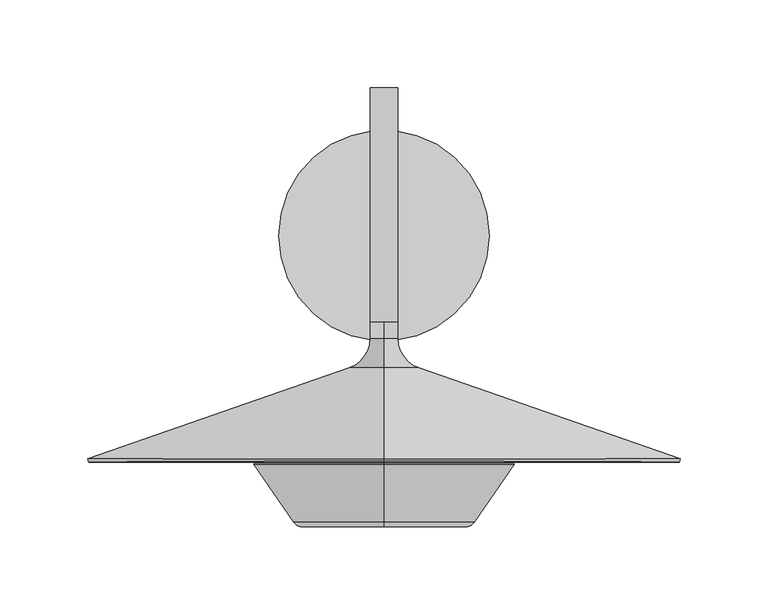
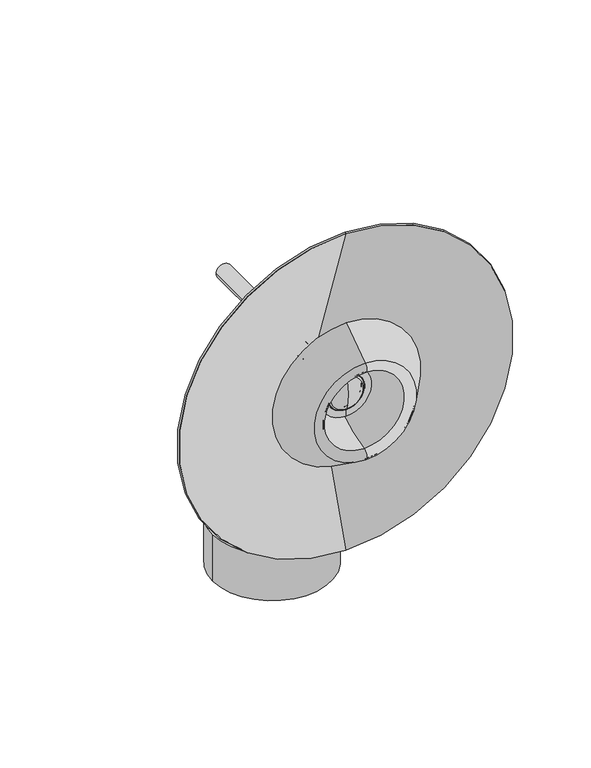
"""IFC4 building model written with IfcOpenShell, lengths in millimetres: light fixture geometry, BOVER_FANALET-A01-OUTDOOR_USA : FANALET_A01_TRIAC_U."""

from ifc_helpers import new_model, si_unit, point, frame, frame_2d, origin, origin_with_axes, origin_2d, place, context, project, spatial, polyline, circle_curve, ellipse_curve, trimmed, segment, composite_curve, outline, extrude, source, transform, mapped, element, save
from ifc_brep_helpers import plane_surface, cylinder_surface, revolved_surface, advanced_brep


def light_fixture_f4510032(model_context):
    return source(origin(), model_context, "Body", "SolidModel", [
        advanced_brep(
        [(0.0, -143.4, 320.1), (0.0, -143.4, 306.9691967), (0.0, -143.4, 212.6308033), (0.0, -143.4, 199.5), (0.0, -144.4, 320.1), (0.0, -144.4, 199.5), (0.0, -144.4, 306.9691967), (0.0, -144.4, 212.6308033), (0.0, -142.1628139, 303.3785858), (0.0, -142.1628139, 216.2214142), (0.0, -67.6985396, 266.8202796), (0.0, -67.6985396, 252.7797204), (0.0, -62.0134649, 265.5), (0.0, -62.0134649, 254.1), (0.0, -59.6770745, 265.5), (0.0, -59.6770745, 254.1), (0.0, -59.6770745, 266.5), (0.0, -59.6770745, 253.1), (0.0, -62.0134649, 266.5), (0.0, -62.0134649, 253.1), (0.0, -67.2578362, 267.7179323), (0.0, -67.2578362, 251.8820677), (0.0, -141.7221104, 304.2762385), (0.0, -141.7221104, 215.3237615)],
        [
            (0, 1),
            (1, 2, circle_curve(frame((0.0, -143.4, 259.8), z_axis=(0.0, -1.0, 0.0), x_axis=(0.0, 0.0, -1.0)), 47.1691967)),
            (2, 3),
            (3, 0, circle_curve(frame((0.0, -143.4, 259.8), z_axis=(0.0, 1.0, 0.0), x_axis=(0.0, 0.0, -1.0)), 60.3)),
            (2, 1, circle_curve(frame((0.0, -143.4, 259.8), z_axis=(0.0, -1.0, 0.0), x_axis=(0.0, 0.0, -1.0)), 47.1691967)),
            (0, 3, circle_curve(frame((0.0, -143.4, 259.8), z_axis=(0.0, 1.0, 0.0), x_axis=(0.0, 0.0, -1.0)), 60.3)),
            (4, 0),
            (3, 5),
            (5, 4, circle_curve(frame((0.0, -144.4, 259.8), z_axis=(0.0, 1.0, 0.0), x_axis=(0.0, 0.0, -1.0)), 60.3)),
            (4, 5, circle_curve(frame((0.0, -144.4, 259.8), z_axis=(0.0, 1.0, 0.0), x_axis=(0.0, 0.0, -1.0)), 60.3)),
            (6, 4),
            (5, 7),
            (7, 6, circle_curve(frame((0.0, -144.4, 259.8), z_axis=(0.0, 1.0, 0.0), x_axis=(0.0, 0.0, -1.0)), 47.1691967)),
            (6, 7, circle_curve(frame((0.0, -144.4, 259.8), z_axis=(0.0, 1.0, 0.0), x_axis=(0.0, 0.0, -1.0)), 47.1691967)),
            (8, 6, circle_curve(frame((0.0, -140.4, 306.9691967), z_axis=(-1.0, 0.0, 0.0), x_axis=(0.0, 0.0, -1.0)), 4.0)),
            (7, 9, circle_curve(frame((0.0, -140.4, 212.6308033), z_axis=(-1.0, 0.0, 0.0), x_axis=(0.0, 0.0, 1.0)), 4.0)),
            (9, 8, circle_curve(frame((0.0, -142.1628139, 259.8), z_axis=(0.0, 1.0, 0.0), x_axis=(0.0, 0.0, -1.0)), 43.5785858)),
            (8, 9, circle_curve(frame((0.0, -142.1628139, 259.8), z_axis=(0.0, 1.0, 0.0), x_axis=(0.0, 0.0, -1.0)), 43.5785858)),
            (10, 8),
            (9, 11),
            (11, 10, circle_curve(frame((0.0, -67.6985396, 259.8), z_axis=(0.0, 1.0, 0.0), x_axis=(0.0, 0.0, -1.0)), 7.0202796)),
            (10, 11, circle_curve(frame((0.0, -67.6985396, 259.8), z_axis=(0.0, 1.0, 0.0), x_axis=(0.0, 0.0, -1.0)), 7.0202796)),
            (12, 10, circle_curve(frame((0.0, -62.0134649, 278.4), z_axis=(-1.0, 0.0, 0.0), x_axis=(0.0, 0.0, -1.0)), 12.9)),
            (11, 13, circle_curve(frame((0.0, -62.0134649, 241.2), z_axis=(-1.0, 0.0, 0.0), x_axis=(0.0, 0.0, 1.0)), 12.9)),
            (13, 12, circle_curve(frame((0.0, -62.0134649, 259.8), z_axis=(0.0, 1.0, 0.0), x_axis=(0.0, 0.0, -1.0)), 5.7)),
            (12, 13, circle_curve(frame((0.0, -62.0134649, 259.8), z_axis=(0.0, 1.0, 0.0), x_axis=(0.0, 0.0, -1.0)), 5.7)),
            (14, 12),
            (13, 15),
            (15, 14, circle_curve(frame((0.0, -59.6770745, 259.8), z_axis=(0.0, 1.0, 0.0), x_axis=(0.0, 0.0, -1.0)), 5.7)),
            (14, 15, circle_curve(frame((0.0, -59.6770745, 259.8), z_axis=(0.0, 1.0, 0.0), x_axis=(0.0, 0.0, -1.0)), 5.7)),
            (16, 14),
            (15, 17),
            (17, 16, circle_curve(frame((0.0, -59.6770745, 259.8), z_axis=(0.0, 1.0, 0.0), x_axis=(0.0, 0.0, -1.0)), 6.7)),
            (16, 17, circle_curve(frame((0.0, -59.6770745, 259.8), z_axis=(0.0, 1.0, 0.0), x_axis=(0.0, 0.0, -1.0)), 6.7)),
            (18, 16),
            (17, 19),
            (19, 18, circle_curve(frame((0.0, -62.0134649, 259.8), z_axis=(0.0, 1.0, 0.0), x_axis=(0.0, 0.0, -1.0)), 6.7)),
            (18, 19, circle_curve(frame((0.0, -62.0134649, 259.8), z_axis=(0.0, 1.0, 0.0), x_axis=(0.0, 0.0, -1.0)), 6.7)),
            (20, 18, circle_curve(frame((0.0, -62.0134649, 278.4), z_axis=(1.0, 0.0, 0.0), x_axis=(0.0, 0.0, -1.0)), 11.9)),
            (19, 21, circle_curve(frame((0.0, -62.0134649, 241.2), z_axis=(1.0, 0.0, 0.0), x_axis=(0.0, 0.0, 1.0)), 11.9)),
            (21, 20, circle_curve(frame((0.0, -67.2578362, 259.8), z_axis=(0.0, 1.0, 0.0), x_axis=(0.0, 0.0, -1.0)), 7.9179323)),
            (20, 21, circle_curve(frame((0.0, -67.2578362, 259.8), z_axis=(0.0, 1.0, 0.0), x_axis=(0.0, 0.0, -1.0)), 7.9179323)),
            (22, 20),
            (21, 23),
            (23, 22, circle_curve(frame((0.0, -141.7221104, 259.8), z_axis=(0.0, 1.0, 0.0), x_axis=(0.0, 0.0, -1.0)), 44.4762385)),
            (22, 23, circle_curve(frame((0.0, -141.7221104, 259.8), z_axis=(0.0, 1.0, 0.0), x_axis=(0.0, 0.0, -1.0)), 44.4762385)),
            (1, 22, circle_curve(frame((0.0, -140.4, 306.9691967), z_axis=(1.0, 0.0, 0.0), x_axis=(0.0, 0.0, -1.0)), 3.0)),
            (23, 2, circle_curve(frame((0.0, -140.4, 212.6308033), z_axis=(1.0, 0.0, 0.0), x_axis=(0.0, 0.0, 1.0)), 3.0)),
        ],
        [
            plane_surface(frame((0.0, -143.4, 259.8), z_axis=(0.0, 1.0, 0.0), x_axis=(0.0, 0.0, -1.0))),
            cylinder_surface(frame((0.0, -85.6770745, 259.8), z_axis=(0.0, -1.0, 0.0), x_axis=(0.0, 0.0, -1.0)), 60.3),
            plane_surface(frame((0.0, -144.4, 259.8), z_axis=(0.0, -1.0, 0.0), x_axis=(0.0, 0.0, -1.0))),
            revolved_surface(trimmed(ellipse_curve(frame((0.0, -140.4, 212.6308033), z_axis=(-1.0, 0.0, 0.0), x_axis=(0.0, 0.0, 1.0)), 4.0, 4.0), [point((0.0, -144.4, 212.6308033))], [point((0.0, -142.1628139, 216.2214142))], True, "CARTESIAN"), (0.0, -85.6770745, 259.8), (0.0, -1.0, 0.0)),
            revolved_surface(polyline([(0.0, -142.1628139, 216.2214142), (0.0, -67.6985396, 252.7797204)]), (0.0, -85.6770745, 259.8), (0.0, -1.0, 0.0)),
            revolved_surface(trimmed(ellipse_curve(frame((0.0, -62.0134649, 241.2), z_axis=(-1.0, 0.0, 0.0), x_axis=(0.0, 0.0, 1.0)), 12.9, 12.9), [point((0.0, -67.6985396, 252.7797204))], [point((0.0, -62.0134649, 254.1))], True, "CARTESIAN"), (0.0, -85.6770745, 259.8), (0.0, -1.0, 0.0)),
            revolved_surface(polyline([(0.0, -62.0134649, 254.10000000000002), (0.0, -59.6770745, 254.10000000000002)]), (0.0, -85.6770745, 259.8), (0.0, -1.0, 0.0)),
            plane_surface(frame((0.0, -59.6770745, 259.8), z_axis=(0.0, 1.0, 0.0), x_axis=(0.0, 0.0, -1.0))),
            cylinder_surface(frame((0.0, -85.6770745, 259.8), z_axis=(0.0, -1.0, 0.0), x_axis=(0.0, 0.0, -1.0)), 6.7),
            revolved_surface(trimmed(ellipse_curve(frame((0.0, -62.0134649, 241.2), z_axis=(1.0, 0.0, 0.0), x_axis=(0.0, 0.0, 1.0)), 11.9, 11.9), [point((0.0, -62.0134649, 253.1))], [point((0.0, -67.2578362, 251.8820677))], True, "CARTESIAN"), (0.0, -85.6770745, 259.8), (0.0, -1.0, 0.0)),
            revolved_surface(polyline([(0.0, -67.2578362, 251.8820677), (0.0, -141.7221104, 215.3237615)]), (0.0, -85.6770745, 259.8), (0.0, -1.0, 0.0)),
            revolved_surface(trimmed(ellipse_curve(frame((0.0, -140.4, 212.6308033), z_axis=(1.0, 0.0, 0.0), x_axis=(0.0, 0.0, 1.0)), 3.0, 3.0), [point((0.0, -141.7221104, 215.3237615))], [point((0.0, -143.4, 212.6308033))], True, "CARTESIAN"), (0.0, -85.6770745, 259.8), (0.0, -1.0, 0.0)),
        ],
        [
            (0, [[1, 2, 3, 4]]),
            (0, [[-3, 5, -1, 6]]),
            (1, [[7, -4, 8, 9]]),
            (1, [[-8, -6, -7, 10]]),
            (2, [[11, -9, 12, 13]]),
            (2, [[-12, -10, -11, 14]]),
            (3, [[15, -13, 16, 17]]),
            (3, [[-16, -14, -15, 18]]),
            (4, [[19, -17, 20, 21]]),
            (4, [[-20, -18, -19, 22]]),
            (5, [[23, -21, 24, 25]]),
            (5, [[-24, -22, -23, 26]]),
            (6, [[27, -25, 28, 29]]),
            (6, [[-28, -26, -27, 30]]),
            (7, [[31, -29, 32, 33]]),
            (7, [[-32, -30, -31, 34]]),
            (8, [[35, -33, 36, 37]]),
            (8, [[-36, -34, -35, 38]]),
            (9, [[39, -37, 40, 41]]),
            (9, [[-40, -38, -39, 42]]),
            (10, [[43, -41, 44, 45]]),
            (10, [[-44, -42, -43, 46]]),
            (11, [[47, -45, 48, -2]]),
            (11, [[-48, -46, -47, -5]]),
        ],
    ),
        advanced_brep(
        [(0.0, -127.5, 285.4944102), (0.0, -127.5, 278.7944102), (0.0, -127.5, 240.8055898), (0.0, -127.5, 234.1055898), (0.0, -129.5, 285.4944102), (0.0, -129.5, 234.1055898), (0.0, -129.5, 278.7944102), (0.0, -129.5, 240.8055898)],
        [
            (0, 1),
            (1, 2, circle_curve(frame((0.0, -127.5, 259.8), z_axis=(0.0, -1.0, 0.0), x_axis=(0.0, 0.0, -1.0)), 18.9944102)),
            (2, 3),
            (3, 0, circle_curve(frame((0.0, -127.5, 259.8), z_axis=(0.0, 1.0, 0.0), x_axis=(0.0, 0.0, -1.0)), 25.6944102)),
            (2, 1, circle_curve(frame((0.0, -127.5, 259.8), z_axis=(0.0, -1.0, 0.0), x_axis=(0.0, 0.0, -1.0)), 18.9944102)),
            (0, 3, circle_curve(frame((0.0, -127.5, 259.8), z_axis=(0.0, 1.0, 0.0), x_axis=(0.0, 0.0, -1.0)), 25.6944102)),
            (4, 0),
            (3, 5),
            (5, 4, circle_curve(frame((0.0, -129.5, 259.8), z_axis=(0.0, 1.0, 0.0), x_axis=(0.0, 0.0, -1.0)), 25.6944102)),
            (4, 5, circle_curve(frame((0.0, -129.5, 259.8), z_axis=(0.0, 1.0, 0.0), x_axis=(0.0, 0.0, -1.0)), 25.6944102)),
            (6, 4),
            (5, 7),
            (7, 6, circle_curve(frame((0.0, -129.5, 259.8), z_axis=(0.0, 1.0, 0.0), x_axis=(0.0, 0.0, -1.0)), 18.9944102)),
            (6, 7, circle_curve(frame((0.0, -129.5, 259.8), z_axis=(0.0, 1.0, 0.0), x_axis=(0.0, 0.0, -1.0)), 18.9944102)),
            (1, 6),
            (7, 2),
        ],
        [
            plane_surface(frame((0.0, -127.5, 259.8), z_axis=(0.0, 1.0, 0.0), x_axis=(0.0, 0.0, -1.0))),
            cylinder_surface(frame((0.0, -113.7553389, 259.8), z_axis=(0.0, -1.0, 0.0), x_axis=(0.0, 0.0, -1.0)), 25.6944102),
            plane_surface(frame((0.0, -129.5, 259.8), z_axis=(0.0, -1.0, 0.0), x_axis=(0.0, 0.0, -1.0))),
            revolved_surface(polyline([(0.0, -129.5, 240.8055898), (0.0, -127.5, 240.8055898)]), (0.0, -113.7553389, 259.8), (0.0, -1.0, 0.0)),
        ],
        [
            (0, [[1, 2, 3, 4]]),
            (0, [[-3, 5, -1, 6]]),
            (1, [[7, -4, 8, 9]]),
            (1, [[-8, -6, -7, 10]]),
            (2, [[11, -9, 12, 13]]),
            (2, [[-12, -10, -11, 14]]),
            (3, [[15, -13, 16, -2]]),
            (3, [[-16, -14, -15, -5]]),
        ],
    ),
        advanced_brep(
        [(0.0, -127.5, 285.0), (0.0, -126.0, 285.0), (0.0, -126.0, 234.6), (0.0, -127.5, 234.6), (0.0, -127.5, 278.1), (0.0, -127.5, 241.5), (0.0, -129.2316716, 278.0373555), (0.0, -129.2316716, 241.5626445), (0.0, -131.0779542, 276.603486), (0.0, -131.0779542, 242.996514), (0.0, -133.5, 259.8), (0.0, -129.5361353, 276.5253602), (0.0, -132.0, 259.8), (0.0, -129.5361353, 243.0746398), (0.0, -127.4457719, 276.6009805), (0.0, -127.4457719, 242.9990195), (0.0, -126.0, 278.1), (0.0, -126.0, 241.5)],
        [
            (0, 1),
            (1, 2, circle_curve(frame((0.0, -126.0, 259.8), z_axis=(0.0, -1.0, 0.0), x_axis=(0.0, 0.0, -1.0)), 25.2)),
            (2, 3),
            (3, 0, circle_curve(frame((0.0, -127.5, 259.8), z_axis=(0.0, 1.0, 0.0), x_axis=(0.0, 0.0, -1.0)), 25.2)),
            (2, 1, circle_curve(frame((0.0, -126.0, 259.8), z_axis=(0.0, -1.0, 0.0), x_axis=(0.0, 0.0, -1.0)), 25.2)),
            (0, 3, circle_curve(frame((0.0, -127.5, 259.8), z_axis=(0.0, 1.0, 0.0), x_axis=(0.0, 0.0, -1.0)), 25.2)),
            (4, 0),
            (3, 5),
            (5, 4, circle_curve(frame((0.0, -127.5, 259.8), z_axis=(0.0, 1.0, 0.0), x_axis=(0.0, 0.0, -1.0)), 18.3)),
            (4, 5, circle_curve(frame((0.0, -127.5, 259.8), z_axis=(0.0, 1.0, 0.0), x_axis=(0.0, 0.0, -1.0)), 18.3)),
            (6, 4),
            (5, 7),
            (7, 6, circle_curve(frame((0.0, -129.2316716, 259.8), z_axis=(0.0, 1.0, 0.0), x_axis=(0.0, 0.0, -1.0)), 18.2373555)),
            (6, 7, circle_curve(frame((0.0, -129.2316716, 259.8), z_axis=(0.0, 1.0, 0.0), x_axis=(0.0, 0.0, -1.0)), 18.2373555)),
            (8, 6, circle_curve(frame((0.0, -129.1593675, 276.0386629), z_axis=(-1.0, 0.0, 0.0), x_axis=(0.0, 0.0, -1.0)), 2.0)),
            (7, 9, circle_curve(frame((0.0, -129.1593675, 243.5613371), z_axis=(-1.0, 0.0, 0.0), x_axis=(0.0, 0.0, 1.0)), 2.0)),
            (9, 8, circle_curve(frame((0.0, -131.0779542, 259.8), z_axis=(0.0, 1.0, 0.0), x_axis=(0.0, 0.0, -1.0)), 16.803486)),
            (8, 9, circle_curve(frame((0.0, -131.0779542, 259.8), z_axis=(0.0, 1.0, 0.0), x_axis=(0.0, 0.0, -1.0)), 16.803486)),
            (10, 8, circle_curve(frame((0.0, -74.0, 259.8), z_axis=(-1.0, 0.0, 0.0), x_axis=(0.0, 0.0, -1.0)), 59.5)),
            (9, 10, circle_curve(frame((0.0, -74.0, 259.8), z_axis=(-1.0, 0.0, 0.0), x_axis=(0.0, 0.0, 1.0)), 59.5)),
            (11, 12, circle_curve(frame((0.0, -74.0, 259.8), z_axis=(1.0, 0.0, 0.0), x_axis=(0.0, 0.0, -1.0)), 58.0)),
            (12, 13, circle_curve(frame((0.0, -74.0, 259.8), z_axis=(1.0, 0.0, 0.0), x_axis=(0.0, 0.0, 1.0)), 58.0)),
            (13, 11, circle_curve(frame((0.0, -129.5361353, 259.8), z_axis=(0.0, 1.0, 0.0), x_axis=(0.0, 0.0, -1.0)), 16.7253602)),
            (11, 13, circle_curve(frame((0.0, -129.5361353, 259.8), z_axis=(0.0, 1.0, 0.0), x_axis=(0.0, 0.0, -1.0)), 16.7253602)),
            (14, 11),
            (13, 15),
            (15, 14, circle_curve(frame((0.0, -127.4457719, 259.8), z_axis=(0.0, 1.0, 0.0), x_axis=(0.0, 0.0, -1.0)), 16.8009805)),
            (14, 15, circle_curve(frame((0.0, -127.4457719, 259.8), z_axis=(0.0, 1.0, 0.0), x_axis=(0.0, 0.0, -1.0)), 16.8009805)),
            (16, 14, circle_curve(frame((0.0, -127.5, 278.1), z_axis=(-1.0, 0.0, 0.0), x_axis=(0.0, 0.0, -1.0)), 1.5)),
            (15, 17, circle_curve(frame((0.0, -127.5, 241.5), z_axis=(-1.0, 0.0, 0.0), x_axis=(0.0, 0.0, 1.0)), 1.5)),
            (17, 16, circle_curve(frame((0.0, -126.0, 259.8), z_axis=(0.0, 1.0, 0.0), x_axis=(0.0, 0.0, -1.0)), 18.3)),
            (16, 17, circle_curve(frame((0.0, -126.0, 259.8), z_axis=(0.0, 1.0, 0.0), x_axis=(0.0, 0.0, -1.0)), 18.3)),
            (1, 16),
            (17, 2),
        ],
        [
            cylinder_surface(frame((0.0, -125.2466328, 259.8), z_axis=(0.0, -1.0, 0.0), x_axis=(0.0, 0.0, -1.0)), 25.2),
            plane_surface(frame((0.0, -127.5, 259.8), z_axis=(0.0, -1.0, 0.0), x_axis=(0.0, 0.0, -1.0))),
            revolved_surface(polyline([(0.0, -127.5, 241.5), (0.0, -129.2316716, 241.5626445)]), (0.0, -125.2466328, 259.8), (0.0, -1.0, 0.0)),
            revolved_surface(trimmed(ellipse_curve(frame((0.0, -129.1593675, 243.5613371), z_axis=(-1.0, 0.0, 0.0), x_axis=(0.0, 0.0, 1.0)), 2.0, 2.0), [point((0.0, -129.2316716, 241.5626445))], [point((0.0, -131.0779542, 242.996514))], True, "CARTESIAN"), (0.0, -125.2466328, 259.8), (0.0, -1.0, 0.0)),
            revolved_surface(trimmed(ellipse_curve(frame((0.0, -74.0, 259.8), z_axis=(-1.0, 0.0, 0.0), x_axis=(0.0, 0.0, 1.0)), 59.5, 59.5), [point((0.0, -131.0779542, 242.996514))], [point((0.0, -133.5, 259.8))], True, "CARTESIAN"), (0.0, -125.2466328, 259.8), (0.0, -1.0, 0.0)),
            revolved_surface(trimmed(ellipse_curve(frame((0.0, -74.0, 259.8), z_axis=(1.0, 0.0, 0.0), x_axis=(0.0, 0.0, 1.0)), 58.0, 58.0), [point((0.0, -132.0, 259.8))], [point((0.0, -129.5361353, 243.0746398))], True, "CARTESIAN"), (0.0, -125.2466328, 259.8), (0.0, -1.0, 0.0)),
            revolved_surface(polyline([(0.0, -129.5361353, 243.0746398), (0.0, -127.4457719, 242.9990195)]), (0.0, -125.2466328, 259.8), (0.0, -1.0, 0.0)),
            revolved_surface(trimmed(ellipse_curve(frame((0.0, -127.5, 241.5), z_axis=(-1.0, 0.0, 0.0), x_axis=(0.0, 0.0, 1.0)), 1.5, 1.5), [point((0.0, -127.4457719, 242.9990195))], [point((0.0, -126.0, 241.5))], True, "CARTESIAN"), (0.0, -125.2466328, 259.8), (0.0, -1.0, 0.0)),
            plane_surface(frame((0.0, -126.0, 259.8), z_axis=(0.0, 1.0, 0.0), x_axis=(0.0, 0.0, -1.0))),
        ],
        [
            (0, [[1, 2, 3, 4]]),
            (0, [[-3, 5, -1, 6]]),
            (1, [[7, -4, 8, 9]]),
            (1, [[-8, -6, -7, 10]]),
            (2, [[11, -9, 12, 13]]),
            (2, [[-12, -10, -11, 14]]),
            (3, [[15, -13, 16, 17]]),
            (3, [[-16, -14, -15, 18]]),
            (4, [[19, -17, 20]]),
            (4, [[-20, -18, -19]]),
            (5, [[21, 22, 23]]),
            (5, [[-22, -21, 24]]),
            (6, [[25, -23, 26, 27]]),
            (6, [[-26, -24, -25, 28]]),
            (7, [[29, -27, 30, 31]]),
            (7, [[-30, -28, -29, 32]]),
            (8, [[33, -31, 34, -2]]),
            (8, [[-34, -32, -33, -5]]),
        ],
    ),
        advanced_brep(
        [(0.0, -161.4325512, 300.7046909), (0.0, -163.6416263, 311.4915226), (0.0, -163.6416263, 208.1084774), (0.0, -161.4325512, 218.8953091), (0.0, -123.499457, 284.8991174), (0.0, -123.499457, 234.7008826), (0.0, -122.6, 283.2291458), (0.0, -122.6, 236.3708542), (0.0, -122.9491855, 285.7341031), (0.0, -121.6, 283.2291458), (0.0, -121.6, 236.3708542), (0.0, -122.9491855, 233.8658969), (0.0, -161.227126, 301.6833637), (0.0, -161.227126, 217.9166363), (0.0, -163.068022, 310.6723902), (0.0, -163.068022, 208.9276098), (0.0, -129.9941332, 333.8326585), (0.0, -129.9941332, 185.7673415), (0.0, -130.5677376, 334.651791), (0.0, -130.5677376, 184.948209)],
        [
            (0, 1, circle_curve(frame((0.0, -160.2, 306.5767278), z_axis=(-1.0, 0.0, 0.0), x_axis=(0.0, 0.0, -1.0)), 6.0)),
            (1, 2, circle_curve(frame((0.0, -163.6416263, 259.8), z_axis=(0.0, -1.0, 0.0), x_axis=(0.0, 0.0, -1.0)), 51.6915226)),
            (2, 3, circle_curve(frame((0.0, -160.2, 213.0232722), z_axis=(-1.0, 0.0, 0.0), x_axis=(0.0, 0.0, 1.0)), 6.0)),
            (3, 0, circle_curve(frame((0.0, -161.4325512, 259.8), z_axis=(0.0, 1.0, 0.0), x_axis=(0.0, 0.0, -1.0)), 40.9046909)),
            (2, 1, circle_curve(frame((0.0, -163.6416263, 259.8), z_axis=(0.0, -1.0, 0.0), x_axis=(0.0, 0.0, -1.0)), 51.6915226)),
            (0, 3, circle_curve(frame((0.0, -161.4325512, 259.8), z_axis=(0.0, 1.0, 0.0), x_axis=(0.0, 0.0, -1.0)), 40.9046909)),
            (4, 0, circle_curve(frame((0.0, -184.0293231, 193.0506808), z_axis=(1.0, 0.0, 0.0), x_axis=(0.0, 0.0, -1.0)), 110.0)),
            (3, 5, circle_curve(frame((0.0, -184.0293231, 326.5493192), z_axis=(1.0, 0.0, 0.0), x_axis=(0.0, 0.0, 1.0)), 110.0)),
            (5, 4, circle_curve(frame((0.0, -123.499457, 259.8), z_axis=(0.0, 1.0, 0.0), x_axis=(0.0, 0.0, -1.0)), 25.0991174)),
            (4, 5, circle_curve(frame((0.0, -123.499457, 259.8), z_axis=(0.0, 1.0, 0.0), x_axis=(0.0, 0.0, -1.0)), 25.0991174)),
            (6, 4, circle_curve(frame((0.0, -124.6, 283.2291458), z_axis=(1.0, 0.0, 0.0), x_axis=(0.0, 0.0, -1.0)), 2.0)),
            (5, 7, circle_curve(frame((0.0, -124.6, 236.3708542), z_axis=(1.0, 0.0, 0.0), x_axis=(0.0, 0.0, 1.0)), 2.0)),
            (7, 6, circle_curve(frame((0.0, -122.6, 259.8), z_axis=(0.0, 1.0, 0.0), x_axis=(0.0, 0.0, -1.0)), 23.4291458)),
            (6, 7, circle_curve(frame((0.0, -122.6, 259.8), z_axis=(0.0, 1.0, 0.0), x_axis=(0.0, 0.0, -1.0)), 23.4291458)),
            (8, 9, circle_curve(frame((0.0, -124.6, 283.2291458), z_axis=(-1.0, 0.0, 0.0), x_axis=(0.0, 0.0, -1.0)), 3.0)),
            (9, 10, circle_curve(frame((0.0, -121.6, 259.8), z_axis=(0.0, -1.0, 0.0), x_axis=(0.0, 0.0, -1.0)), 23.4291458)),
            (10, 11, circle_curve(frame((0.0, -124.6, 236.3708542), z_axis=(-1.0, 0.0, 0.0), x_axis=(0.0, 0.0, 1.0)), 3.0)),
            (11, 8, circle_curve(frame((0.0, -122.9491855, 259.8), z_axis=(0.0, 1.0, 0.0), x_axis=(0.0, 0.0, -1.0)), 25.9341031)),
            (10, 9, circle_curve(frame((0.0, -121.6, 259.8), z_axis=(0.0, -1.0, 0.0), x_axis=(0.0, 0.0, -1.0)), 23.4291458)),
            (8, 11, circle_curve(frame((0.0, -122.9491855, 259.8), z_axis=(0.0, 1.0, 0.0), x_axis=(0.0, 0.0, -1.0)), 25.9341031)),
            (12, 8, circle_curve(frame((0.0, -184.0293231, 193.0506808), z_axis=(-1.0, 0.0, 0.0), x_axis=(0.0, 0.0, -1.0)), 111.0)),
            (11, 13, circle_curve(frame((0.0, -184.0293231, 326.5493192), z_axis=(-1.0, 0.0, 0.0), x_axis=(0.0, 0.0, 1.0)), 111.0)),
            (13, 12, circle_curve(frame((0.0, -161.227126, 259.8), z_axis=(0.0, 1.0, 0.0), x_axis=(0.0, 0.0, -1.0)), 41.8833637)),
            (12, 13, circle_curve(frame((0.0, -161.227126, 259.8), z_axis=(0.0, 1.0, 0.0), x_axis=(0.0, 0.0, -1.0)), 41.8833637)),
            (14, 12, circle_curve(frame((0.0, -160.2, 306.5767278), z_axis=(1.0, 0.0, 0.0), x_axis=(0.0, 0.0, -1.0)), 5.0)),
            (13, 15, circle_curve(frame((0.0, -160.2, 213.0232722), z_axis=(1.0, 0.0, 0.0), x_axis=(0.0, 0.0, 1.0)), 5.0)),
            (15, 14, circle_curve(frame((0.0, -163.068022, 259.8), z_axis=(0.0, 1.0, 0.0), x_axis=(0.0, 0.0, -1.0)), 50.8723902)),
            (14, 15, circle_curve(frame((0.0, -163.068022, 259.8), z_axis=(0.0, 1.0, 0.0), x_axis=(0.0, 0.0, -1.0)), 50.8723902)),
            (16, 14),
            (15, 17),
            (17, 16, circle_curve(frame((0.0, -129.9941332, 259.8), z_axis=(0.0, 1.0, 0.0), x_axis=(0.0, 0.0, -1.0)), 74.0326585)),
            (16, 17, circle_curve(frame((0.0, -129.9941332, 259.8), z_axis=(0.0, 1.0, 0.0), x_axis=(0.0, 0.0, -1.0)), 74.0326585)),
            (18, 16),
            (17, 19),
            (19, 18, circle_curve(frame((0.0, -130.5677376, 259.8), z_axis=(0.0, 1.0, 0.0), x_axis=(0.0, 0.0, -1.0)), 74.851791)),
            (18, 19, circle_curve(frame((0.0, -130.5677376, 259.8), z_axis=(0.0, 1.0, 0.0), x_axis=(0.0, 0.0, -1.0)), 74.851791)),
            (1, 18),
            (19, 2),
            (9, 6),
            (7, 10),
        ],
        [
            revolved_surface(trimmed(ellipse_curve(frame((0.0, -160.2, 213.0232722), z_axis=(-1.0, 0.0, 0.0), x_axis=(0.0, 0.0, 1.0)), 6.0, 6.0), [point((0.0, -163.6416263, 208.1084774))], [point((0.0, -161.4325512, 218.8953091))], True, "CARTESIAN"), (0.0, -99.037333, 259.8), (0.0, -1.0, 0.0)),
            revolved_surface(trimmed(ellipse_curve(frame((0.0, -184.0293231, 326.5493192), z_axis=(1.0, 0.0, 0.0), x_axis=(0.0, 0.0, 1.0)), 110.0, 110.0), [point((0.0, -161.4325512, 218.8953091))], [point((0.0, -123.499457, 234.7008826))], True, "CARTESIAN"), (0.0, -99.037333, 259.8), (0.0, -1.0, 0.0)),
            revolved_surface(trimmed(ellipse_curve(frame((0.0, -124.6, 236.3708542), z_axis=(1.0, 0.0, 0.0), x_axis=(0.0, 0.0, 1.0)), 2.0, 2.0), [point((0.0, -123.499457, 234.7008826))], [point((0.0, -122.6, 236.3708542))], True, "CARTESIAN"), (0.0, -99.037333, 259.8), (0.0, -1.0, 0.0)),
            revolved_surface(trimmed(ellipse_curve(frame((0.0, -124.6, 236.3708542), z_axis=(-1.0, 0.0, 0.0), x_axis=(0.0, 0.0, 1.0)), 3.0, 3.0), [point((0.0, -121.6, 236.3708542))], [point((0.0, -122.9491855, 233.8658969))], True, "CARTESIAN"), (0.0, -99.037333, 259.8), (0.0, -1.0, 0.0)),
            revolved_surface(trimmed(ellipse_curve(frame((0.0, -184.0293231, 326.5493192), z_axis=(-1.0, 0.0, 0.0), x_axis=(0.0, 0.0, 1.0)), 111.0, 111.0), [point((0.0, -122.9491855, 233.8658969))], [point((0.0, -161.227126, 217.9166363))], True, "CARTESIAN"), (0.0, -99.037333, 259.8), (0.0, -1.0, 0.0)),
            revolved_surface(trimmed(ellipse_curve(frame((0.0, -160.2, 213.0232722), z_axis=(1.0, 0.0, 0.0), x_axis=(0.0, 0.0, 1.0)), 5.0, 5.0), [point((0.0, -161.227126, 217.9166363))], [point((0.0, -163.068022, 208.9276098))], True, "CARTESIAN"), (0.0, -99.037333, 259.8), (0.0, -1.0, 0.0)),
            revolved_surface(polyline([(0.0, -163.068022, 208.9276098), (0.0, -129.9941332, 185.7673415)]), (0.0, -99.037333, 259.8), (0.0, -1.0, 0.0)),
            revolved_surface(polyline([(0.0, -129.9941332, 185.7673415), (0.0, -130.5677376, 184.948209)]), (0.0, -99.037333, 259.8), (0.0, -1.0, 0.0)),
            revolved_surface(polyline([(0.0, -130.5677376, 184.948209), (0.0, -163.6416263, 208.1084774)]), (0.0, -99.037333, 259.8), (0.0, -1.0, 0.0)),
            revolved_surface(polyline([(0.0, -122.6, 236.3708542), (0.0, -121.6, 236.3708542)]), (0.0, -99.037333, 259.8), (0.0, -1.0, 0.0)),
        ],
        [
            (0, [[1, 2, 3, 4]]),
            (0, [[-3, 5, -1, 6]]),
            (1, [[7, -4, 8, 9]]),
            (1, [[-8, -6, -7, 10]]),
            (2, [[11, -9, 12, 13]]),
            (2, [[-12, -10, -11, 14]]),
            (3, [[15, 16, 17, 18]]),
            (3, [[-17, 19, -15, 20]]),
            (4, [[21, -18, 22, 23]]),
            (4, [[-22, -20, -21, 24]]),
            (5, [[25, -23, 26, 27]]),
            (5, [[-26, -24, -25, 28]]),
            (6, [[29, -27, 30, 31]]),
            (6, [[-30, -28, -29, 32]]),
            (7, [[33, -31, 34, 35]]),
            (7, [[-34, -32, -33, 36]]),
            (8, [[37, -35, 38, -2]]),
            (8, [[-38, -36, -37, -5]]),
            (9, [[39, -13, 40, -16]]),
            (9, [[-40, -14, -39, -19]]),
        ],
    ),
        advanced_brep(
        [(0.0, -129.389787, 429.1452444), (0.0, -128.1275349, 428.5566465), (0.0, -128.1275349, 91.0433535), (0.0, -129.389787, 90.4547556), (0.0, -77.3983888, 279.0851815), (0.0, -77.3983888, 240.5148185), (0.0, -58.5950077, 265.7), (0.0, -58.5950077, 253.9), (0.0, -50.6, 265.7), (0.0, -50.6, 253.9), (0.0, -50.6, 266.7), (0.0, -50.6, 252.9), (0.0, -58.5950077, 266.7), (0.0, -58.5950077, 252.9), (0.0, -76.4534953, 279.4125593), (0.0, -76.4534953, 240.1874407)],
        [
            (0, 1),
            (1, 2, circle_curve(frame((0.0, -128.1275349, 259.8), z_axis=(0.0, -1.0, 0.0), x_axis=(0.0, 0.0, -1.0)), 168.7566465)),
            (2, 3),
            (3, 0, circle_curve(frame((0.0, -129.389787, 259.8), z_axis=(0.0, 1.0, 0.0), x_axis=(0.0, 0.0, -1.0)), 169.3452444)),
            (2, 1, circle_curve(frame((0.0, -128.1275349, 259.8), z_axis=(0.0, -1.0, 0.0), x_axis=(0.0, 0.0, -1.0)), 168.7566465)),
            (0, 3, circle_curve(frame((0.0, -129.389787, 259.8), z_axis=(0.0, 1.0, 0.0), x_axis=(0.0, 0.0, -1.0)), 169.3452444)),
            (4, 0),
            (3, 5),
            (5, 4, circle_curve(frame((0.0, -77.3983888, 259.8), z_axis=(0.0, 1.0, 0.0), x_axis=(0.0, 0.0, -1.0)), 19.2851815)),
            (4, 5, circle_curve(frame((0.0, -77.3983888, 259.8), z_axis=(0.0, 1.0, 0.0), x_axis=(0.0, 0.0, -1.0)), 19.2851815)),
            (6, 4, circle_curve(frame((0.0, -58.5950077, 285.6), z_axis=(-1.0, 0.0, 0.0), x_axis=(0.0, 0.0, -1.0)), 19.9)),
            (5, 7, circle_curve(frame((0.0, -58.5950077, 234.0), z_axis=(-1.0, 0.0, 0.0), x_axis=(0.0, 0.0, 1.0)), 19.9)),
            (7, 6, circle_curve(frame((0.0, -58.5950077, 259.8), z_axis=(0.0, 1.0, 0.0), x_axis=(0.0, 0.0, -1.0)), 5.9)),
            (6, 7, circle_curve(frame((0.0, -58.5950077, 259.8), z_axis=(0.0, 1.0, 0.0), x_axis=(0.0, 0.0, -1.0)), 5.9)),
            (8, 6),
            (7, 9),
            (9, 8, circle_curve(frame((0.0, -50.6, 259.8), z_axis=(0.0, 1.0, 0.0), x_axis=(0.0, 0.0, -1.0)), 5.9)),
            (8, 9, circle_curve(frame((0.0, -50.6, 259.8), z_axis=(0.0, 1.0, 0.0), x_axis=(0.0, 0.0, -1.0)), 5.9)),
            (10, 8),
            (9, 11),
            (11, 10, circle_curve(frame((0.0, -50.6, 259.8), z_axis=(0.0, 1.0, 0.0), x_axis=(0.0, 0.0, -1.0)), 6.9)),
            (10, 11, circle_curve(frame((0.0, -50.6, 259.8), z_axis=(0.0, 1.0, 0.0), x_axis=(0.0, 0.0, -1.0)), 6.9)),
            (12, 10),
            (11, 13),
            (13, 12, circle_curve(frame((0.0, -58.5950077, 259.8), z_axis=(0.0, 1.0, 0.0), x_axis=(0.0, 0.0, -1.0)), 6.9)),
            (12, 13, circle_curve(frame((0.0, -58.5950077, 259.8), z_axis=(0.0, 1.0, 0.0), x_axis=(0.0, 0.0, -1.0)), 6.9)),
            (14, 12, circle_curve(frame((0.0, -58.5950077, 285.6), z_axis=(1.0, 0.0, 0.0), x_axis=(0.0, 0.0, -1.0)), 18.9)),
            (13, 15, circle_curve(frame((0.0, -58.5950077, 234.0), z_axis=(1.0, 0.0, 0.0), x_axis=(0.0, 0.0, 1.0)), 18.9)),
            (15, 14, circle_curve(frame((0.0, -76.4534953, 259.8), z_axis=(0.0, 1.0, 0.0), x_axis=(0.0, 0.0, -1.0)), 19.6125593)),
            (14, 15, circle_curve(frame((0.0, -76.4534953, 259.8), z_axis=(0.0, 1.0, 0.0), x_axis=(0.0, 0.0, -1.0)), 19.6125593)),
            (1, 14),
            (15, 2),
        ],
        [
            revolved_surface(polyline([(0.0, -128.1275349, 91.0433535), (0.0, -129.389787, 90.4547556)]), (0.0, -73.0863505, 259.8), (0.0, -1.0, 0.0)),
            revolved_surface(polyline([(0.0, -129.389787, 90.4547556), (0.0, -77.3983888, 240.5148185)]), (0.0, -73.0863505, 259.8), (0.0, -1.0, 0.0)),
            revolved_surface(trimmed(ellipse_curve(frame((0.0, -58.5950077, 234.0), z_axis=(-1.0, 0.0, 0.0), x_axis=(0.0, 0.0, 1.0)), 19.9, 19.9), [point((0.0, -77.3983888, 240.5148185))], [point((0.0, -58.5950077, 253.9))], True, "CARTESIAN"), (0.0, -73.0863505, 259.8), (0.0, -1.0, 0.0)),
            revolved_surface(polyline([(0.0, -58.5950077, 253.9), (0.0, -50.6, 253.9)]), (0.0, -73.0863505, 259.8), (0.0, -1.0, 0.0)),
            plane_surface(frame((0.0, -50.6, 259.8), z_axis=(0.0, 1.0, 0.0), x_axis=(0.0, 0.0, -1.0))),
            cylinder_surface(frame((0.0, -73.0863505, 259.8), z_axis=(0.0, -1.0, 0.0), x_axis=(0.0, 0.0, -1.0)), 6.9),
            revolved_surface(trimmed(ellipse_curve(frame((0.0, -58.5950077, 234.0), z_axis=(1.0, 0.0, 0.0), x_axis=(0.0, 0.0, 1.0)), 18.9, 18.9), [point((0.0, -58.5950077, 252.9))], [point((0.0, -76.4534953, 240.1874407))], True, "CARTESIAN"), (0.0, -73.0863505, 259.8), (0.0, -1.0, 0.0)),
            revolved_surface(polyline([(0.0, -76.4534953, 240.1874407), (0.0, -128.1275349, 91.0433535)]), (0.0, -73.0863505, 259.8), (0.0, -1.0, 0.0)),
        ],
        [
            (0, [[1, 2, 3, 4]]),
            (0, [[-3, 5, -1, 6]]),
            (1, [[7, -4, 8, 9]]),
            (1, [[-8, -6, -7, 10]]),
            (2, [[11, -9, 12, 13]]),
            (2, [[-12, -10, -11, 14]]),
            (3, [[15, -13, 16, 17]]),
            (3, [[-16, -14, -15, 18]]),
            (4, [[19, -17, 20, 21]]),
            (4, [[-20, -18, -19, 22]]),
            (5, [[23, -21, 24, 25]]),
            (5, [[-24, -22, -23, 26]]),
            (6, [[27, -25, 28, 29]]),
            (6, [[-28, -26, -27, 30]]),
            (7, [[31, -29, 32, -2]]),
            (7, [[-32, -30, -31, -5]]),
        ],
    ),
        advanced_brep(
        [(0.0, -127.5, 429.8), (0.0, -75.5086017, 279.7399371), (0.0, -75.5086017, 239.8600629), (0.0, -127.5, 89.8), (0.0, -129.389787, 429.1452444), (0.0, -129.389787, 90.4547556), (0.0, -76.4534953, 279.4125593), (0.0, -128.1275349, 428.5566465), (0.0, -128.1275349, 91.0433535), (0.0, -76.4534953, 240.1874407), (0.0, -58.5950077, 266.7), (0.0, -58.5950077, 252.9), (0.0, -50.6, 266.7), (0.0, -50.6, 252.9), (0.0, -50.6, 259.8), (0.0, -49.6, 267.7), (0.0, -49.6, 259.8), (0.0, -49.6, 251.9), (0.0, -58.5950077, 267.7), (0.0, -58.5950077, 251.9)],
        [
            (0, 1),
            (1, 2, circle_curve(frame((0.0, -75.5086017, 259.8), z_axis=(0.0, -1.0, 0.0), x_axis=(0.0, 0.0, -1.0)), 19.9399371)),
            (2, 3),
            (3, 0, circle_curve(frame((0.0, -127.5, 259.8), z_axis=(0.0, 1.0, 0.0), x_axis=(0.0, 0.0, -1.0)), 170.0)),
            (2, 1, circle_curve(frame((0.0, -75.5086017, 259.8), z_axis=(0.0, -1.0, 0.0), x_axis=(0.0, 0.0, -1.0)), 19.9399371)),
            (0, 3, circle_curve(frame((0.0, -127.5, 259.8), z_axis=(0.0, 1.0, 0.0), x_axis=(0.0, 0.0, -1.0)), 170.0)),
            (4, 0),
            (3, 5),
            (5, 4, circle_curve(frame((0.0, -129.389787, 259.8), z_axis=(0.0, 1.0, 0.0), x_axis=(0.0, 0.0, -1.0)), 169.3452444)),
            (4, 5, circle_curve(frame((0.0, -129.389787, 259.8), z_axis=(0.0, 1.0, 0.0), x_axis=(0.0, 0.0, -1.0)), 169.3452444)),
            (6, 7),
            (7, 8, circle_curve(frame((0.0, -128.1275349, 259.8), z_axis=(0.0, -1.0, 0.0), x_axis=(0.0, 0.0, -1.0)), 168.7566465)),
            (8, 9),
            (9, 6, circle_curve(frame((0.0, -76.4534953, 259.8), z_axis=(0.0, 1.0, 0.0), x_axis=(0.0, 0.0, -1.0)), 19.6125593)),
            (8, 7, circle_curve(frame((0.0, -128.1275349, 259.8), z_axis=(0.0, -1.0, 0.0), x_axis=(0.0, 0.0, -1.0)), 168.7566465)),
            (6, 9, circle_curve(frame((0.0, -76.4534953, 259.8), z_axis=(0.0, 1.0, 0.0), x_axis=(0.0, 0.0, -1.0)), 19.6125593)),
            (10, 6, circle_curve(frame((0.0, -58.5950077, 285.6), z_axis=(-1.0, 0.0, 0.0), x_axis=(0.0, 0.0, -1.0)), 18.9)),
            (9, 11, circle_curve(frame((0.0, -58.5950077, 234.0), z_axis=(-1.0, 0.0, 0.0), x_axis=(0.0, 0.0, 1.0)), 18.9)),
            (11, 10, circle_curve(frame((0.0, -58.5950077, 259.8), z_axis=(0.0, 1.0, 0.0), x_axis=(0.0, 0.0, -1.0)), 6.9)),
            (10, 11, circle_curve(frame((0.0, -58.5950077, 259.8), z_axis=(0.0, 1.0, 0.0), x_axis=(0.0, 0.0, -1.0)), 6.9)),
            (12, 10),
            (11, 13),
            (13, 12, circle_curve(frame((0.0, -50.6, 259.8), z_axis=(0.0, 1.0, 0.0), x_axis=(0.0, 0.0, -1.0)), 6.9)),
            (12, 13, circle_curve(frame((0.0, -50.6, 259.8), z_axis=(0.0, 1.0, 0.0), x_axis=(0.0, 0.0, -1.0)), 6.9)),
            (14, 12),
            (13, 14),
            (15, 16),
            (16, 17),
            (17, 15, circle_curve(frame((0.0, -49.6, 259.8), z_axis=(0.0, 1.0, 0.0), x_axis=(0.0, 0.0, -1.0)), 7.9)),
            (15, 17, circle_curve(frame((0.0, -49.6, 259.8), z_axis=(0.0, 1.0, 0.0), x_axis=(0.0, 0.0, -1.0)), 7.9)),
            (18, 15),
            (17, 19),
            (19, 18, circle_curve(frame((0.0, -58.5950077, 259.8), z_axis=(0.0, 1.0, 0.0), x_axis=(0.0, 0.0, -1.0)), 7.9)),
            (18, 19, circle_curve(frame((0.0, -58.5950077, 259.8), z_axis=(0.0, 1.0, 0.0), x_axis=(0.0, 0.0, -1.0)), 7.9)),
            (1, 18, circle_curve(frame((0.0, -58.5950077, 285.6), z_axis=(1.0, 0.0, 0.0), x_axis=(0.0, 0.0, -1.0)), 17.9)),
            (19, 2, circle_curve(frame((0.0, -58.5950077, 234.0), z_axis=(1.0, 0.0, 0.0), x_axis=(0.0, 0.0, 1.0)), 17.9)),
            (7, 4),
            (5, 8),
        ],
        [
            revolved_surface(polyline([(0.0, -75.5086017, 239.8600629), (0.0, -127.5, 89.8)]), (0.0, -70.6, 259.8), (0.0, -1.0, 0.0)),
            revolved_surface(polyline([(0.0, -127.5, 89.8), (0.0, -129.389787, 90.4547556)]), (0.0, -70.6, 259.8), (0.0, -1.0, 0.0)),
            revolved_surface(polyline([(0.0, -128.1275349, 91.0433535), (0.0, -76.4534953, 240.1874407)]), (0.0, -70.6, 259.8), (0.0, -1.0, 0.0)),
            revolved_surface(trimmed(ellipse_curve(frame((0.0, -58.5950077, 234.0), z_axis=(-1.0, 0.0, 0.0), x_axis=(0.0, 0.0, 1.0)), 18.9, 18.9), [point((0.0, -76.4534953, 240.1874407))], [point((0.0, -58.5950077, 252.9))], True, "CARTESIAN"), (0.0, -70.6, 259.8), (0.0, -1.0, 0.0)),
            revolved_surface(polyline([(0.0, -58.5950077, 252.9), (0.0, -50.6, 252.9)]), (0.0, -70.6, 259.8), (0.0, -1.0, 0.0)),
            plane_surface(frame((0.0, -50.6, 259.8), z_axis=(0.0, -1.0, 0.0), x_axis=(0.0, 0.0, -1.0))),
            plane_surface(frame((0.0, -49.6, 259.8), z_axis=(0.0, 1.0, 0.0), x_axis=(0.0, 0.0, -1.0))),
            cylinder_surface(frame((0.0, -70.6, 259.8), z_axis=(0.0, -1.0, 0.0), x_axis=(0.0, 0.0, -1.0)), 7.9),
            revolved_surface(trimmed(ellipse_curve(frame((0.0, -58.5950077, 234.0), z_axis=(1.0, 0.0, 0.0), x_axis=(0.0, 0.0, 1.0)), 17.9, 17.9), [point((0.0, -58.5950077, 251.9))], [point((0.0, -75.5086017, 239.8600629))], True, "CARTESIAN"), (0.0, -70.6, 259.8), (0.0, -1.0, 0.0)),
            revolved_surface(polyline([(0.0, -129.389787, 90.4547556), (0.0, -128.1275349, 91.0433535)]), (0.0, -70.6, 259.8), (0.0, -1.0, 0.0)),
        ],
        [
            (0, [[1, 2, 3, 4]]),
            (0, [[-3, 5, -1, 6]]),
            (1, [[7, -4, 8, 9]]),
            (1, [[-8, -6, -7, 10]]),
            (2, [[11, 12, 13, 14]]),
            (2, [[-13, 15, -11, 16]]),
            (3, [[17, -14, 18, 19]]),
            (3, [[-18, -16, -17, 20]]),
            (4, [[21, -19, 22, 23]]),
            (4, [[-22, -20, -21, 24]]),
            (5, [[25, -23, 26]]),
            (5, [[-26, -24, -25]]),
            (6, [[27, 28, 29]]),
            (6, [[-28, -27, 30]]),
            (7, [[31, -29, 32, 33]]),
            (7, [[-32, -30, -31, 34]]),
            (8, [[35, -33, 36, -2]]),
            (8, [[-36, -34, -35, -5]]),
            (9, [[37, -9, 38, -12]]),
            (9, [[-38, -10, -37, -15]]),
        ],
    ),
        extrude(outline(composite_curve([segment(trimmed(circle_curve(frame_2d((259.8, 0.0)), 7.9), [point((259.8, -7.9))], [point((259.8, 7.9))], False, "CARTESIAN"), True, "CONTINUOUS"), segment(trimmed(circle_curve(frame_2d((259.8, 0.0)), 7.9), [point((259.8, 7.9))], [point((259.8, -7.9))], False, "CARTESIAN"), True, "CONTINUOUS")], self_intersect=False)), frame((0.0, -49.6, 0.0), z_axis=(0.0, 1.0, 0.0), x_axis=(0.0, 0.0, 1.0)), (0.0, 0.0, 1.0), 133.9),
        extrude(outline(composite_curve([segment(trimmed(circle_curve(origin_2d(), 7.9), [point((-7.9, 0.0))], [point((7.9, 0.0))], False, "CARTESIAN"), True, "CONTINUOUS"), segment(trimmed(circle_curve(origin_2d(), 7.9), [point((7.9, 0.0))], [point((-7.9, 0.0))], False, "CARTESIAN"), True, "CONTINUOUS")], self_intersect=False)), frame((0.0, 0.0, 49.6), z_axis=(0.0, 0.0, 1.0), x_axis=(1.0, 0.0, 0.0)), (0.0, 0.0, 1.0), 210.2),
        extrude(outline(composite_curve([segment(trimmed(circle_curve(origin_2d(), 60.0), [point((-60.0, 0.0))], [point((60.0, 0.0))], False, "CARTESIAN"), True, "CONTINUOUS"), segment(trimmed(circle_curve(origin_2d(), 60.0), [point((60.0, 0.0))], [point((-60.0, 0.0))], False, "CARTESIAN"), True, "CONTINUOUS")], self_intersect=False)), origin_with_axes(), (0.0, 0.0, 1.0), 49.6),
    ])


if __name__ == "__main__":
    model = new_model("IFC4")
    model_context = context("Model", 3, world=origin())
    ifc_project = project(units=[si_unit("LENGTHUNIT", "METRE", prefix="MILLI")], contexts=[model_context])
    site = spatial("IfcSite", under=ifc_project)
    building = spatial("IfcBuilding", under=site)
    placement = place(None, origin())
    light_fixture_shape = light_fixture_f4510032(model_context)
    element("IfcLightFixture", 1, ObjectType="BOVER_FANALET-A01-OUTDOOR_USA : FANALET_A01_TRIAC_U", at=placement, inside=building, context=model_context, shape_type="MappedRepresentation", body=[
        mapped(light_fixture_shape, transform((0.0, 0.0, 0.0), x_axis=(1.0, 0.0, 0.0), y_axis=(0.0, 1.0, 0.0), z_axis=(0.0, 0.0, 1.0))),
    ])
    save(model, "model.ifc")
